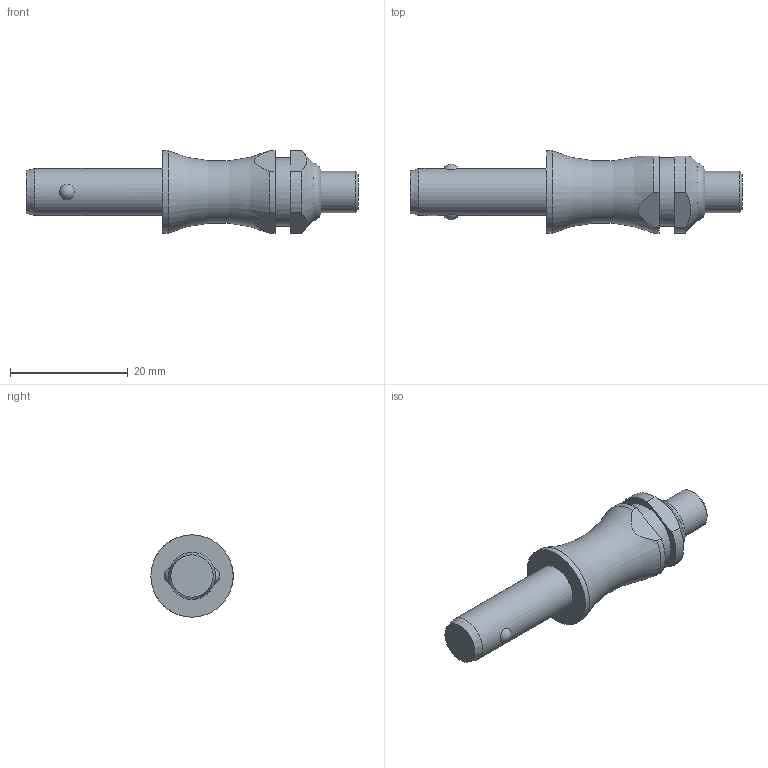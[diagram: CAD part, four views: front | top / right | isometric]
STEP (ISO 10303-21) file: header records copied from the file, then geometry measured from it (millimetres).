
FILE_DESCRIPTION( ( 'STEP AP203' ), '1' );
FILE_NAME( 'C:/Temp/Ganter_Step_05_03_2020/data/3_1/gn113_3/Stainless Steel-Ball lock pin GN 113.3-8-15 (deactivated).stp', '2020-03-12T08:18:22', ( 'License CC BY-ND 4.0' ), ( 'CADENAS' ), ' ', 'PARTsolutions', ' ' );
FILE_SCHEMA( ( 'CONFIG_CONTROL_DESIGN' ) );
Length unit declared in the file: millimetre
Products named in the file (1): _Stainless Steel-Ball lock pin GN 113.3-8-15 (deactivated)
Bounding box: 56.5 x 14 x 14 mm (x, y, z)
Volume: 4385.9 mm3; surface area: 2040.4 mm2
Topology: 1 solids, 1 shells, 28 faces, 60 edges, 39 vertices
Faces by surface type: plane 11, cylinder 10, cone 3, torus 2, sphere 2
Full cylindrical faces by diameter (mm): 7 x1, 8 x1, 11.6 x1, 14 x1
Entity records: 916 total; most frequent: CARTESIAN_POINT 303, DIRECTION 122, ORIENTED_EDGE 98, AXIS2_PLACEMENT_3D 52, EDGE_CURVE 49, EDGE_LOOP 42, VERTEX_POINT 37, FACE_OUTER_BOUND 34
